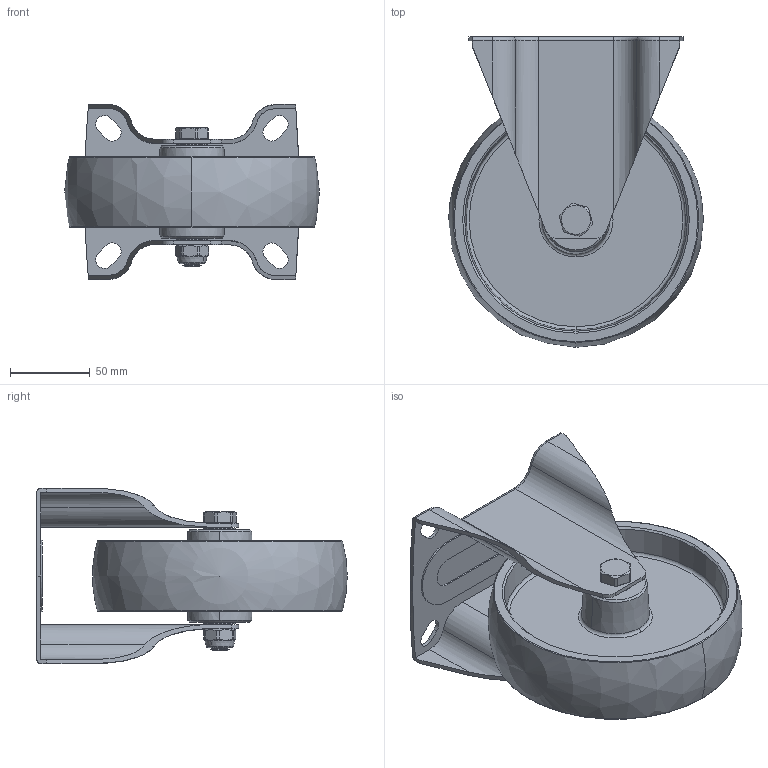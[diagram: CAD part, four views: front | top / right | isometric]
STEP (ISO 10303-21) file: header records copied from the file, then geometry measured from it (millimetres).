
FILE_DESCRIPTION (( 'STEP AP203' ), '1' );
FILE_NAME ('wn8660-fp-160-Wiberger.step', '2026-08-03T06:32:09', ( '' ), ( '' ), 'SwSTEP 2.0', 'SolidWorks 2024', '' );
FILE_SCHEMA (( 'CONFIG_CONTROL_DESIGN' ));
Length unit declared in the file: millimetre
Products named in the file (8): wn8660-fp-160-Wiberger; Spacer_9411-RF_9411-RF_Swede-Wheel; Bracket_5B1668-RF_5B1668-RF_Swede-Wheel; Hub_3616045202N-HD_3616045202N-HD_Swede-Wheel; Screw_9521280B-RF_9521280B-RF_Swede-Wheel; Nut_9541212B-RF_9541212B-RF_Swede-Wheel; Wheel_3616045202N-HD_3616045202N-HD_Swede-Wheel
Assembly tree (7 placements, depth 3):
  wn8660-fp-160-Wiberger
    Bracket_5B1668-RF_5B1668-RF_Swede-Wheel
    Wheel_3616045202N-HD_3616045202N-HD_Swede-Wheel
      Hub_3616045202N-HD_3616045202N-HD_Swede-Wheel
    Spacer_9411-RF_9411-RF_Swede-Wheel
      Spacer_9411-RF_9411-RF_Swede-Wheel
    Nut_9541212B-RF_9541212B-RF_Swede-Wheel
    Screw_9521280B-RF_9521280B-RF_Swede-Wheel
Bounding box: 160 x 195 x 110 mm (x, y, z)
Volume: 440675 mm3; surface area: 166804.3 mm2
Topology: 5 solids, 5 shells, 385 faces, 893 edges, 528 vertices
Faces by surface type: cylinder 116, cone 103, torus 100, plane 64, sphere 2
Entity records: 11987 total; most frequent: DIRECTION 2149, CARTESIAN_POINT 2112, ORIENTED_EDGE 1776, AXIS2_PLACEMENT_3D 914, EDGE_CURVE 888, VERTEX_POINT 525, CIRCLE 517, EDGE_LOOP 415
